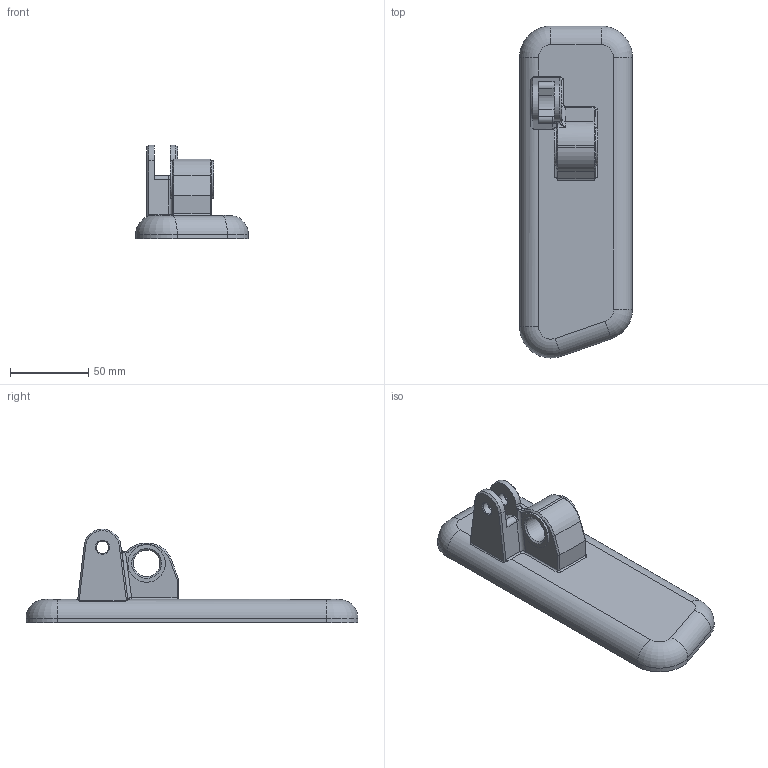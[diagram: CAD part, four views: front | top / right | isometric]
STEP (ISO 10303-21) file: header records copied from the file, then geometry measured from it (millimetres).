
FILE_DESCRIPTION(/* description */ ('STEP AP242 Edition 2','CAx-IF Rec.Pracs.---Representation and Presentation of Product Manufacturing Information (PMI)---4.0---2014-10-13','CAx-IF Rec.Pracs.---3D Tessellated Geometry---0.4---2014-09-14','2;1','CAx-IF Rec.Pracs.---User Defined Attributes---1.5---2016-08-15'),/* implementation_level */ '2;1');
FILE_NAME(/* name */ 'Assy_ForMFG - KD-D-501L_FootStructure',/* time_stamp */ '2026-05-15T19:56:38Z',/* author */ (''),/* organization */ (''),/* preprocessor_version */ 'ST-DEVELOPER v20',/* originating_system */ 'ONSHAPE BY PTC INC, 1.215',/* authorisation */ ' ');
FILE_SCHEMA (('AP242_MANAGED_MODEL_BASED_3D_ENGINEERING_MIM_LF { 1 0 10303 442 3 1 4 }'));
Length unit declared in the file: metre
Products named in the file (1): KD-D-501L_FootStructure
Bounding box: 72 x 211.88 x 59.96 mm (x, y, z)
Volume: 132517.4 mm3; surface area: 66630.1 mm2
Topology: 1 solids, 1 shells, 359 faces, 939 edges, 611 vertices
Faces by surface type: cylinder 176, plane 151, torus 13, cone 12, bspline 7
Full cylindrical faces by diameter (mm): 3.3 x9, 8 x2, 17 x1, 24 x2
Entity records: 11347 total; most frequent: CARTESIAN_POINT 2480, DIRECTION 1885, ORIENTED_EDGE 1814, EDGE_CURVE 907, AXIS2_PLACEMENT_3D 698, VERTEX_POINT 598, LINE 489, VECTOR 489
